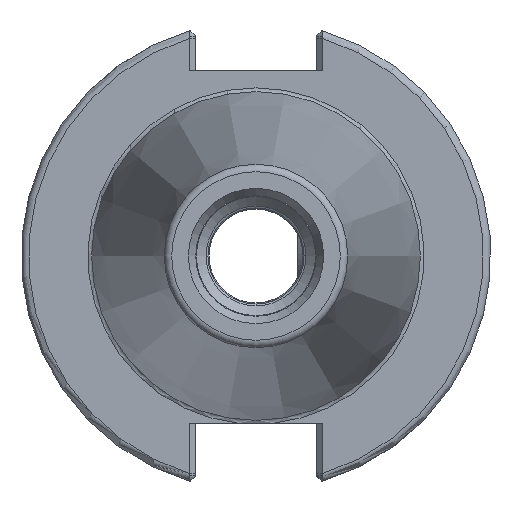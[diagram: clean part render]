
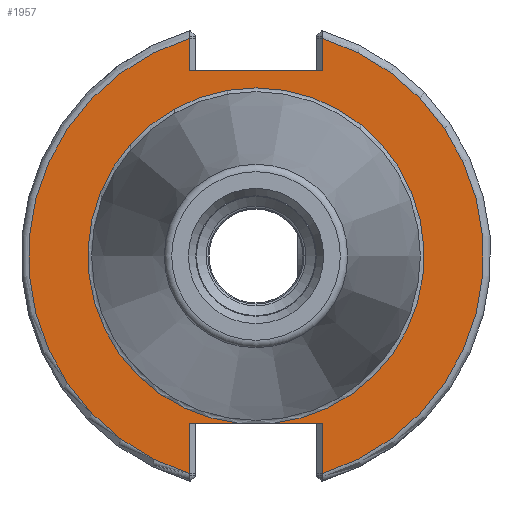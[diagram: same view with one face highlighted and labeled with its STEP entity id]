
A CAD part, left-side view. The second image highlights one B-rep face of the part: STEP entity #1957.
In plain terms, the highlighted planar face has unit normal (-1, 0, 0).
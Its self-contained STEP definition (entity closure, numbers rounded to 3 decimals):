
#167=LINE('',#3087,#289);
#182=LINE('',#3205,#304);
#184=LINE('',#3283,#306);
#185=LINE('',#3289,#307);
#186=LINE('',#3291,#308);
#187=LINE('',#3294,#309);
#188=LINE('',#3295,#310);
#289=VECTOR('',#2459,10.);
#304=VECTOR('',#2480,10.);
#306=VECTOR('',#2502,10.);
#307=VECTOR('',#2507,10.);
#308=VECTOR('',#2508,10.);
#309=VECTOR('',#2511,10.);
#310=VECTOR('',#2512,10.);
#431=PLANE('',#2182);
#502=FACE_OUTER_BOUND('',#627,.T.);
#627=EDGE_LOOP('',(#1470,#1471,#1472,#1473,#1474,#1475,#1476,#1477,#1478,
#1479,#1480));
#756=CIRCLE('',#2181,30.75);
#757=CIRCLE('',#2183,22.725);
#758=CIRCLE('',#2184,22.725);
#759=CIRCLE('',#2185,30.75);
#846=VERTEX_POINT('',#3085);
#847=VERTEX_POINT('',#3086);
#861=VERTEX_POINT('',#3198);
#864=VERTEX_POINT('',#3203);
#871=VERTEX_POINT('',#3262);
#873=VERTEX_POINT('',#3282);
#874=VERTEX_POINT('',#3284);
#875=VERTEX_POINT('',#3286);
#876=VERTEX_POINT('',#3288);
#877=VERTEX_POINT('',#3290);
#878=VERTEX_POINT('',#3292);
#1062=EDGE_CURVE('',#846,#847,#167,.T.);
#1081=EDGE_CURVE('',#864,#861,#182,.T.);
#1093=EDGE_CURVE('',#861,#871,#756,.T.);
#1096=EDGE_CURVE('',#864,#873,#184,.T.);
#1097=EDGE_CURVE('',#873,#874,#757,.T.);
#1098=EDGE_CURVE('',#874,#875,#758,.T.);
#1099=EDGE_CURVE('',#875,#876,#185,.T.);
#1100=EDGE_CURVE('',#877,#876,#186,.T.);
#1101=EDGE_CURVE('',#878,#877,#759,.T.);
#1102=EDGE_CURVE('',#846,#878,#187,.T.);
#1103=EDGE_CURVE('',#871,#847,#188,.T.);
#1470=ORIENTED_EDGE('',*,*,#1081,.F.);
#1471=ORIENTED_EDGE('',*,*,#1096,.T.);
#1472=ORIENTED_EDGE('',*,*,#1097,.T.);
#1473=ORIENTED_EDGE('',*,*,#1098,.T.);
#1474=ORIENTED_EDGE('',*,*,#1099,.T.);
#1475=ORIENTED_EDGE('',*,*,#1100,.F.);
#1476=ORIENTED_EDGE('',*,*,#1101,.F.);
#1477=ORIENTED_EDGE('',*,*,#1102,.F.);
#1478=ORIENTED_EDGE('',*,*,#1062,.T.);
#1479=ORIENTED_EDGE('',*,*,#1103,.F.);
#1480=ORIENTED_EDGE('',*,*,#1093,.F.);
#1957=ADVANCED_FACE('',(#502),#431,.T.);
#2181=AXIS2_PLACEMENT_3D('',#3263,#2498,#2499);
#2182=AXIS2_PLACEMENT_3D('',#3281,#2500,#2501);
#2183=AXIS2_PLACEMENT_3D('',#3285,#2503,#2504);
#2184=AXIS2_PLACEMENT_3D('',#3287,#2505,#2506);
#2185=AXIS2_PLACEMENT_3D('',#3293,#2509,#2510);
#2459=DIRECTION('',(0.,1.,0.));
#2480=DIRECTION('',(0.,0.,-1.));
#2498=DIRECTION('center_axis',(1.,0.,0.));
#2499=DIRECTION('ref_axis',(0.,0.,-1.));
#2500=DIRECTION('center_axis',(-1.,0.,0.));
#2501=DIRECTION('ref_axis',(0.,0.,1.));
#2502=DIRECTION('',(0.,-1.,0.));
#2503=DIRECTION('center_axis',(1.,0.,0.));
#2504=DIRECTION('ref_axis',(0.,0.,-1.));
#2505=DIRECTION('center_axis',(1.,0.,0.));
#2506=DIRECTION('ref_axis',(0.,0.,-1.));
#2507=DIRECTION('',(0.,-1.,0.));
#2508=DIRECTION('',(0.,0.,1.));
#2509=DIRECTION('center_axis',(1.,0.,0.));
#2510=DIRECTION('ref_axis',(0.,0.,-1.));
#2511=DIRECTION('',(0.,0.,1.));
#2512=DIRECTION('',(0.,0.,-1.));
#3085=CARTESIAN_POINT('',(3.175,-8.992,25.019));
#3086=CARTESIAN_POINT('',(3.175,8.992,25.019));
#3087=CARTESIAN_POINT('',(3.175,19.471,25.019));
#3198=CARTESIAN_POINT('',(3.175,8.992,-29.406));
#3203=CARTESIAN_POINT('',(3.175,8.992,-22.606));
#3205=CARTESIAN_POINT('',(3.175,8.992,-11.303));
#3262=CARTESIAN_POINT('',(3.175,8.992,29.406));
#3263=CARTESIAN_POINT('Origin',(3.175,0.,0.));
#3281=CARTESIAN_POINT('Origin',(3.175,30.75,0.));
#3282=CARTESIAN_POINT('',(3.175,2.323,-22.606));
#3283=CARTESIAN_POINT('',(3.175,11.279,-22.606));
#3284=CARTESIAN_POINT('',(3.175,0.,22.725));
#3285=CARTESIAN_POINT('Origin',(3.175,0.,0.));
#3286=CARTESIAN_POINT('',(3.175,-2.323,-22.606));
#3287=CARTESIAN_POINT('Origin',(3.175,0.,0.));
#3288=CARTESIAN_POINT('',(3.175,-8.991,-22.606));
#3289=CARTESIAN_POINT('',(3.175,11.279,-22.606));
#3290=CARTESIAN_POINT('',(3.175,-8.991,-29.406));
#3291=CARTESIAN_POINT('',(3.175,-8.991,-17.303));
#3292=CARTESIAN_POINT('',(3.175,-8.992,29.406));
#3293=CARTESIAN_POINT('Origin',(3.175,0.,0.));
#3294=CARTESIAN_POINT('',(3.175,-8.992,12.51));
#3295=CARTESIAN_POINT('',(3.175,8.992,17.51));
